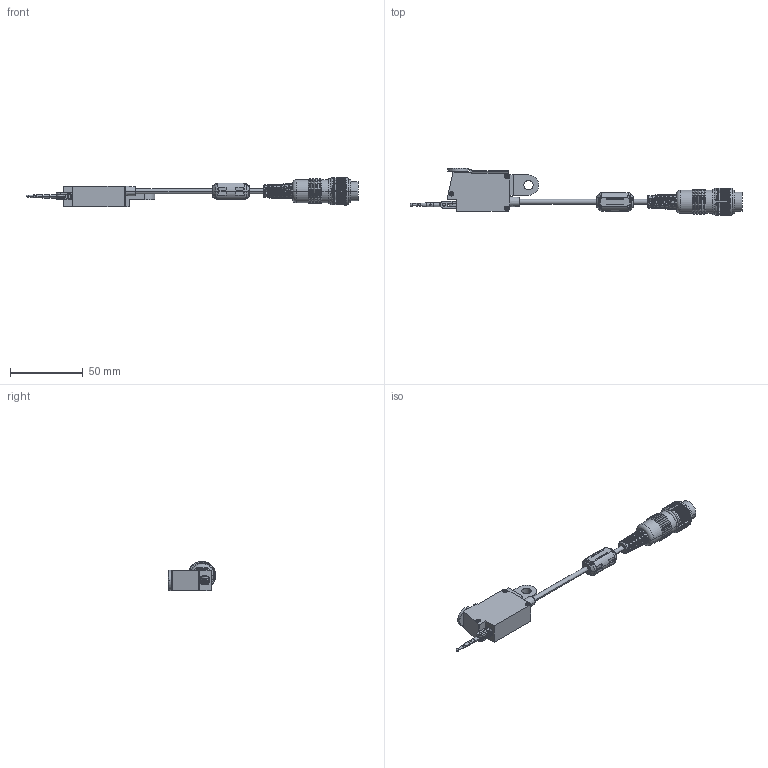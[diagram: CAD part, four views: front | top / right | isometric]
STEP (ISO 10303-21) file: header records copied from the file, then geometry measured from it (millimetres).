
FILE_DESCRIPTION(('Creo Elements/Direct Modeling STEP Export'),'2;1');
FILE_NAME('519-326.stp','2017-08-21T18:43:51',(''),(''),'Creo Elements/Direct Modeling STEP processor for AP214 (Solid Model)','Creo Elements/Direct Modeling 18.1C 24-Feb-2013 (C) Parametric Technology GmbH','');
FILE_SCHEMA(('AUTOMOTIVE_DESIGN { 1 0 10303 214 1 1 1 1 }'));
Products named in the file (1): 519-326
Bounding box: 228.6 x 32.5 x 20 mm (x, y, z)
Volume: 31203.2 mm3; surface area: 13868.1 mm2
Topology: 1 solids, 1 shells, 2046 faces, 5370 edges, 3431 vertices
Faces by surface type: cylinder 840, plane 816, bspline 176, torus 118, cone 78, sphere 18
Entity records: 119498 total; most frequent: CARTESIAN_POINT 56665, ORIENTED_EDGE 10728, DIRECTION 8729, EDGE_CURVE 5364, VERTEX_POINT 3431, AXIS2_PLACEMENT_3D 3157, VECTOR 2415, LINE 2415
